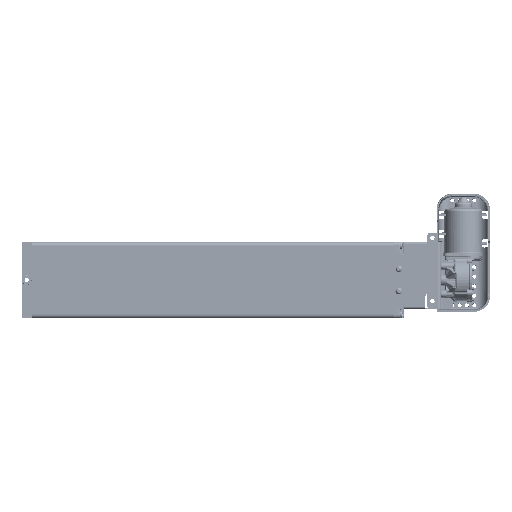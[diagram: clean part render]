
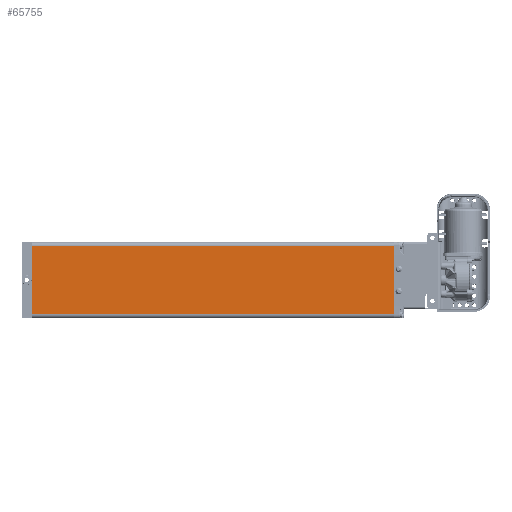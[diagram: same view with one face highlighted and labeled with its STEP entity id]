
A CAD part, top view. The second image highlights one B-rep face of the part: STEP entity #65755.
In plain terms, the highlighted planar face has unit normal (0, 0, 1).
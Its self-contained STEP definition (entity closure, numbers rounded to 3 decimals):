
#5911=LINE('',#113316,#8642);
#5912=LINE('',#113319,#8643);
#5913=LINE('',#113321,#8644);
#5914=LINE('',#113323,#8645);
#8642=VECTOR('',#76638,1000.);
#8643=VECTOR('',#76639,1000.);
#8644=VECTOR('',#76640,1000.);
#8645=VECTOR('',#76641,1000.);
#10762=PLANE('',#69628);
#15915=ORIENTED_EDGE('',*,*,#29801,.T.);
#15916=ORIENTED_EDGE('',*,*,#29802,.T.);
#15917=ORIENTED_EDGE('',*,*,#29803,.T.);
#15918=ORIENTED_EDGE('',*,*,#29804,.T.);
#29801=EDGE_CURVE('',#36971,#36972,#5911,.F.);
#29802=EDGE_CURVE('',#36972,#36973,#5912,.T.);
#29803=EDGE_CURVE('',#36973,#36974,#5913,.T.);
#29804=EDGE_CURVE('',#36974,#36971,#5914,.F.);
#36971=VERTEX_POINT('',#113317);
#36972=VERTEX_POINT('',#113318);
#36973=VERTEX_POINT('',#113320);
#36974=VERTEX_POINT('',#113322);
#43924=EDGE_LOOP('',(#15915,#15916,#15917,#15918));
#47942=FACE_BOUND('',#43924,.T.);
#65755=ADVANCED_FACE('',(#47942),#10762,.T.);
#69628=AXIS2_PLACEMENT_3D('',#113315,#76636,#76637);
#76636=DIRECTION('',(0.,0.,1.));
#76637=DIRECTION('',(1.,0.,0.));
#76638=DIRECTION('',(0.,-1.,0.));
#76639=DIRECTION('',(-1.,0.,0.));
#76640=DIRECTION('',(0.,-1.,0.));
#76641=DIRECTION('',(-1.,0.,0.));
#113315=CARTESIAN_POINT('',(60.,570.5,30.));
#113316=CARTESIAN_POINT('',(54.,570.5,30.));
#113317=CARTESIAN_POINT('',(54.,0.5,30.));
#113318=CARTESIAN_POINT('',(54.,570.,30.));
#113319=CARTESIAN_POINT('',(60.,570.,30.));
#113320=CARTESIAN_POINT('',(-54.,570.,30.));
#113321=CARTESIAN_POINT('',(-54.,570.5,30.));
#113322=CARTESIAN_POINT('',(-54.,0.5,30.));
#113323=CARTESIAN_POINT('',(54.,0.5,30.));
